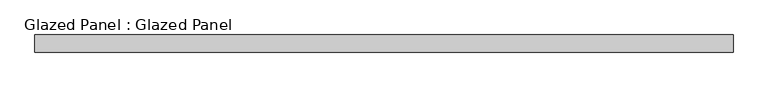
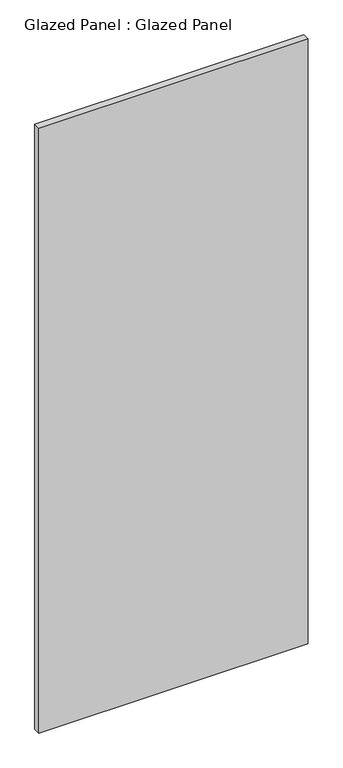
"""IFC4 building model written with IfcOpenShell, lengths in millimetres: plate geometry, Glazed Panel : Glazed Panel."""

import ifcopenshell
import ifcopenshell.guid

model = None  # the IFC model being written
_history = None  # IfcOwnerHistory: only IFC2X3 demands one
_inside = {}  # id of a spatial element -> (the spatial element, [elements in it])
_under = {}  # id of a project, library or spatial element -> (it, [spatial elements below it])
_declared = {}  # id of a project -> (the project, [libraries it declares])
_typed = {}  # id of a type object -> (the type object, [elements of that type])
_made_of = {}  # id of a material, layer set ... -> (it, [elements and type objects made of it])


def new_model(schema):
    """Start an empty IFC model of exactly this schema.

    Asked for "IFC4X3", IfcOpenShell would pick the latest addendum, in which some entities
    have other attributes; the version numbers below select the first issue.
    IFC2X3 requires an IfcOwnerHistory on every rooted entity: one is made here for all.
    """
    global model, _history
    if schema == "IFC4X3":
        model = ifcopenshell.file(schema_version=(4, 3, 0, 0))
    else:
        model = ifcopenshell.file(schema=schema)
    _inside.clear()
    _under.clear()
    _declared.clear()
    _typed.clear()
    _made_of.clear()
    _history = None
    if model.schema == "IFC2X3":
        org = make("IfcOrganization", Name="unknown")
        user = make(
            "IfcPersonAndOrganization",
            ThePerson=make("IfcPerson", FamilyName="unknown"),
            TheOrganization=org,
        )
        app = make(
            "IfcApplication",
            ApplicationDeveloper=org,
            Version="unknown",
            ApplicationFullName="unknown",
            ApplicationIdentifier="unknown",
        )
        _history = make(
            "IfcOwnerHistory",
            OwningUser=user,
            OwningApplication=app,
            ChangeAction="ADDED",
            CreationDate=0,
        )
    return model


def make(cls, **values):
    """One entity of the class cls with the attributes given. An attribute that is None is left unset."""
    return model.create_entity(
        cls, **{name: value for name, value in values.items() if value is not None}
    )


def rooted(cls, **values):
    """An entity with a GlobalId (a new one), such as an element, a storey or a relation."""
    return make(cls, GlobalId=ifcopenshell.guid.new(), OwnerHistory=_history, **values)


def si_unit(unit_type, name, prefix=None):
    """IfcSIUnit, for example si_unit("LENGTHUNIT", "METRE", prefix="MILLI")."""
    return make("IfcSIUnit", UnitType=unit_type, Prefix=prefix, Name=name)


def assignment(units):
    """IfcUnitAssignment: the units of a project."""
    return None if units is None else make("IfcUnitAssignment", Units=units)


def point(xyz):
    """IfcCartesianPoint."""
    return None if xyz is None else make("IfcCartesianPoint", Coordinates=xyz)


def direction(xyz):
    """IfcDirection."""
    return None if xyz is None else make("IfcDirection", DirectionRatios=xyz)


def frame(location, z_axis=None, x_axis=None):
    """IfcAxis2Placement3D, a coordinate frame: its origin and axes. An axis left out is left unset."""
    return make(
        "IfcAxis2Placement3D",
        Location=point(location),
        Axis=direction(z_axis),
        RefDirection=direction(x_axis),
    )


def origin():
    """The frame at (0, 0, 0) with its axes left unset."""
    return frame((0.0, 0.0, 0.0))


def origin_with_axes():
    """The frame at (0, 0, 0) with the z axis (0, 0, 1) and the x axis (1, 0, 0) written out."""
    return frame((0.0, 0.0, 0.0), z_axis=(0.0, 0.0, 1.0), x_axis=(1.0, 0.0, 0.0))


def place(relative_to, where):
    """IfcLocalPlacement: puts the frame where relative to a parent placement (None: the world)."""
    return make(
        "IfcLocalPlacement", PlacementRelTo=relative_to, RelativePlacement=where
    )


def context(
    kind, dimensions, precision=None, world=None, true_north=None, identifier=None
):
    """IfcGeometricRepresentationContext, for example the 3D "Model" context."""
    return make(
        "IfcGeometricRepresentationContext",
        ContextIdentifier=identifier,
        ContextType=kind,
        CoordinateSpaceDimension=dimensions,
        Precision=precision,
        WorldCoordinateSystem=world,
        TrueNorth=true_north,
    )


def project(units=None, contexts=None):
    """IfcProject with its units and contexts."""
    return rooted(
        "IfcProject",
        Name="project",
        RepresentationContexts=contexts,
        UnitsInContext=assignment(units),
    )


def spatial(cls, under=None, at=None, **own):
    """A site, building, storey or space (cls), placed at a placement, below another one or the project."""
    s = rooted(cls, ObjectPlacement=at, **own)
    if under is not None:
        _under.setdefault(under.id(), (under, []))[1].append(s)
    return s


def polyline(points):
    """IfcPolyline through the points."""
    return make("IfcPolyline", Points=[point(p) for p in points])


def outline(outer, holes=None, kind="AREA"):
    """IfcArbitraryClosedProfileDef: a profile drawn as a closed curve; with holes, ...WithVoids."""
    if holes is None:
        return make("IfcArbitraryClosedProfileDef", ProfileType=kind, OuterCurve=outer)
    return make(
        "IfcArbitraryProfileDefWithVoids",
        ProfileType=kind,
        OuterCurve=outer,
        InnerCurves=holes,
    )


def extrude(swept, where, along, depth):
    """IfcExtrudedAreaSolid: the profile swept, set in the frame where, extruded along a direction by depth."""
    return make(
        "IfcExtrudedAreaSolid",
        SweptArea=swept,
        Position=where,
        ExtrudedDirection=direction(along),
        Depth=depth,
    )


def shape(context_of_items, identifier, shape_type, items):
    """IfcShapeRepresentation: the items that make up one representation, for example the "Body"."""
    return make(
        "IfcShapeRepresentation",
        ContextOfItems=context_of_items,
        RepresentationIdentifier=identifier,
        RepresentationType=shape_type,
        Items=items,
    )


def source(mapping_origin, context_of_items, identifier, shape_type, items):
    """IfcRepresentationMap: a shape defined once, which mapped items show again and again."""
    return make(
        "IfcRepresentationMap",
        MappingOrigin=mapping_origin,
        MappedRepresentation=shape(context_of_items, identifier, shape_type, items),
    )


def transform(
    local_origin,
    x_axis=None,
    y_axis=None,
    z_axis=None,
    scale=None,
    scale2=None,
    scale3=None,
    uniform=True,
):
    """IfcCartesianTransformationOperator3D, or its non-uniform kind. x_axis, y_axis, z_axis: its Axis1, 2, 3."""
    if uniform:
        return make(
            "IfcCartesianTransformationOperator3D",
            Axis1=direction(x_axis),
            Axis2=direction(y_axis),
            LocalOrigin=point(local_origin),
            Scale=scale,
            Axis3=direction(z_axis),
        )
    return make(
        "IfcCartesianTransformationOperator3DnonUniform",
        Axis1=direction(x_axis),
        Axis2=direction(y_axis),
        LocalOrigin=point(local_origin),
        Scale=scale,
        Axis3=direction(z_axis),
        Scale2=scale2,
        Scale3=scale3,
    )


def mapped(mapping_source, mapping_target):
    """IfcMappedItem: shows the shape of a source again, moved by a transform."""
    return make(
        "IfcMappedItem", MappingSource=mapping_source, MappingTarget=mapping_target
    )


def made_of(thing, what):
    """Note that an element or type object is made of a material, layer set ...; save() writes the relation."""
    if what is not None:
        _made_of.setdefault(what.id(), (what, []))[1].append(thing)
    return thing


def element(
    cls,
    number,
    at=None,
    inside=None,
    cuts=None,
    type_object=None,
    material=None,
    context=None,
    identifier="Body",
    shape_type=None,
    held_by="IfcProductDefinitionShape",
    body=None,
    shapes=None,
    **own,
):
    """One element of the class cls, such as IfcWall. Its Tag is "e" and its number.

    at: its placement. inside: the storey or other place that contains it. cuts: it is an
    opening in that element (IfcRelVoidsElement). A single representation is given by context,
    identifier, shape_type and body (its items); several are given by shapes. held_by: the class
    of the entity that holds the representations. save() writes the other relations.
    """
    e = rooted(cls, Tag="e%d" % number, ObjectPlacement=at, **own)
    if body is not None:
        shapes = [shape(context, identifier, shape_type, body)]
    if shapes is not None:
        e.Representation = make(held_by, Representations=shapes)
    if inside is not None:
        _inside.setdefault(inside.id(), (inside, []))[1].append(e)
    if cuts is not None:
        rooted(
            "IfcRelVoidsElement", RelatingBuildingElement=cuts, RelatedOpeningElement=e
        )
    if type_object is not None:
        _typed.setdefault(type_object.id(), (type_object, []))[1].append(e)
    return made_of(e, material)


def aggregate(whole, parts):
    """IfcRelAggregates: a whole, such as a stair, and the parts it consists of."""
    return rooted("IfcRelAggregates", RelatingObject=whole, RelatedObjects=parts)


def save(model, path):
    """Write the relations noted so far, then the file.

    IfcRelAggregates (storeys below a building ...), IfcRelContainedInSpatialStructure (elements
    in a storey), IfcRelDefinesByType, IfcRelAssociatesMaterial and IfcRelDeclares: one each for
    every whole, place, type object, material and project.
    """
    for whole, parts in _under.values():
        aggregate(whole, parts)
    for where, things in _inside.values():
        rooted(
            "IfcRelContainedInSpatialStructure",
            RelatedElements=things,
            RelatingStructure=where,
        )
    for kind, things in _typed.values():
        rooted("IfcRelDefinesByType", RelatedObjects=things, RelatingType=kind)
    for what, things in _made_of.values():
        rooted("IfcRelAssociatesMaterial", RelatedObjects=things, RelatingMaterial=what)
    for by, libraries in _declared.values():
        rooted("IfcRelDeclares", RelatingContext=by, RelatedDefinitions=libraries)
    model.write(path)


def glazed_panel_glazed_panel_4f181820(model_context):
    return source(origin(), model_context, "Body", "SweptSolid", [
        extrude(outline(polyline([(507.0766667, 38.1), (-507.0766667, 38.1), (-507.0766667, 63.5), (507.0766667, 63.5), (507.0766667, 38.1)])), origin_with_axes(), (0.0, 0.0, 1.0), 2406.65),
    ])


if __name__ == "__main__":
    model = new_model("IFC4")
    model_context = context("Model", 3, world=origin())
    ifc_project = project(units=[si_unit("LENGTHUNIT", "METRE", prefix="MILLI")], contexts=[model_context])
    site = spatial("IfcSite", under=ifc_project)
    building = spatial("IfcBuilding", under=site)
    placement = place(None, origin())
    glazed_panel_glazed_panel_shape = glazed_panel_glazed_panel_4f181820(model_context)
    element("IfcPlate", 1, ObjectType="Glazed Panel : Glazed Panel", at=placement, inside=building, context=model_context, shape_type="MappedRepresentation", body=[
        mapped(glazed_panel_glazed_panel_shape, transform((0.0, 0.0, 0.0), x_axis=(1.0, 0.0, 0.0), y_axis=(0.0, 1.0, 0.0), z_axis=(0.0, 0.0, 1.0))),
    ])
    save(model, "model.ifc")
